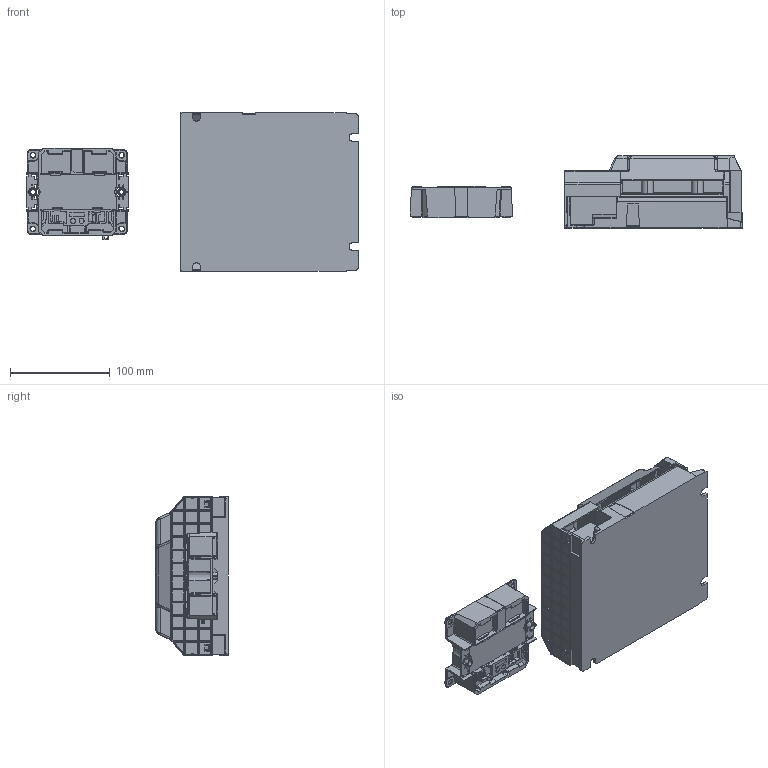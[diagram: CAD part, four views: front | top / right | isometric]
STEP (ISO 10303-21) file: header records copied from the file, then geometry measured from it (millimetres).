
FILE_DESCRIPTION (( 'STEP AP214' ), '1' );
FILE_NAME ('90.Z9.65.500.0_20260818.STEP', '2026-08-18T08:32:30', ( '' ), ( '' ), 'SwSTEP 2.0', 'SolidWorks 2026', '' );
FILE_SCHEMA (( 'AUTOMOTIVE_DESIGN' ));
Length unit declared in the file: millimetre
Products named in the file (3): Blackbox DCES1500_CADLEM00041082; 90.Z9.65.500.0_20260818; Blackbox DCES RDU_Blackbox DCES RDU
Assembly tree (2 placements, depth 2):
  90.Z9.65.500.0_20260818
    Blackbox DCES1500_CADLEM00041082
    Blackbox DCES RDU_Blackbox DCES RDU
Bounding box: 333.09 x 72.5 x 160.41 mm (x, y, z)
Volume: 1210428.8 mm3; surface area: 287403.5 mm2
Topology: 6 solids, 82 shells, 7446 faces, 18665 edges, 11404 vertices
Faces by surface type: plane 3052, cylinder 2793, bspline 835, sphere 336, cone 235, torus 195
Entity records: 233686 total; most frequent: CARTESIAN_POINT 68713, ORIENTED_EDGE 37160, DIRECTION 31540, EDGE_CURVE 18580, VERTEX_POINT 11404, VECTOR 10752, LINE 10752, AXIS2_PLACEMENT_3D 10394
